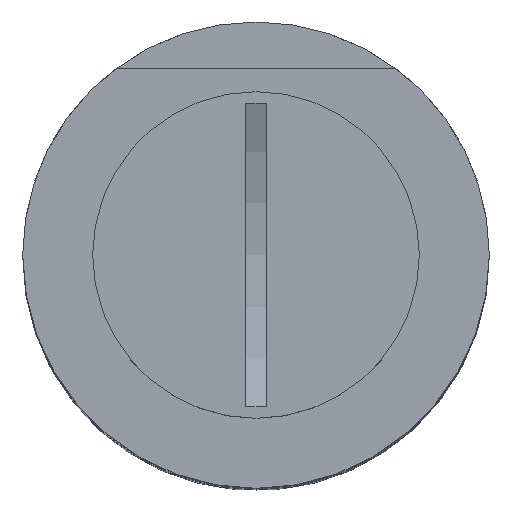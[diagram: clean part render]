
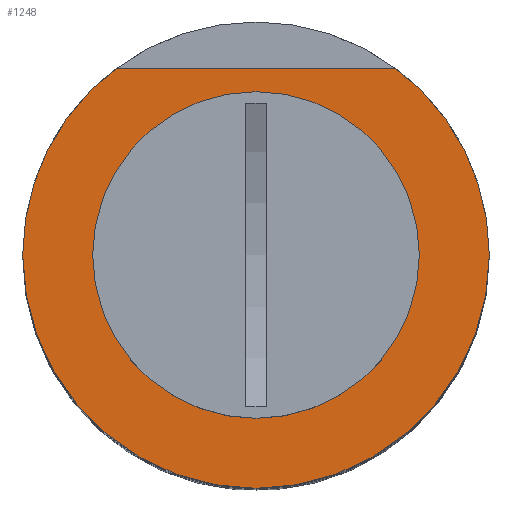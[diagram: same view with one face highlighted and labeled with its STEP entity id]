
A CAD part, top view. The second image highlights one B-rep face of the part: STEP entity #1248.
In plain terms, the highlighted planar face has unit normal (0, 0, 1).
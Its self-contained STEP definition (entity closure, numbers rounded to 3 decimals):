
#125 = CIRCLE ( 'NONE', #7016, 20. ) ;
#199 = VERTEX_POINT ( 'NONE', #7537 ) ;
#507 = DIRECTION ( 'NONE',  ( 1., 0., 0. ) ) ;
#552 = FACE_BOUND ( 'NONE', #7190, .T. ) ;
#609 = PLANE ( 'NONE',  #2458 ) ;
#635 = CIRCLE ( 'NONE', #7174, 12.25 ) ;
#1248 = ADVANCED_FACE ( 'NONE', ( #552, #1568 ), #609, .T. ) ;
#1327 = DIRECTION ( 'NONE',  ( -1., 0., 0. ) ) ;
#1332 = EDGE_LOOP ( 'NONE', ( #5241, #3220, #10286, #1732 ) ) ;
#1382 = VECTOR ( 'NONE', #7176, 1000. ) ;
#1408 = DIRECTION ( 'NONE',  ( 1., 0., 0. ) ) ;
#1465 = ORIENTED_EDGE ( 'NONE', *, *, #7895, .F. ) ;
#1512 = CARTESIAN_POINT ( 'NONE',  ( 0., 0., 0. ) ) ;
#1568 = FACE_OUTER_BOUND ( 'NONE', #1332, .T. ) ;
#1732 = ORIENTED_EDGE ( 'NONE', *, *, #10159, .F. ) ;
#1823 = CARTESIAN_POINT ( 'NONE',  ( -12.25, 0., 0. ) ) ;
#2018 = EDGE_CURVE ( 'NONE', #8298, #7810, #3685, .T. ) ;
#2322 = DIRECTION ( 'NONE',  ( 0., 0., -1. ) ) ;
#2360 = DIRECTION ( 'NONE',  ( -1., 0., 0. ) ) ;
#2458 = AXIS2_PLACEMENT_3D ( 'NONE', #7589, #10125, #3203 ) ;
#2461 = CIRCLE ( 'NONE', #7550, 20. ) ;
#3015 = AXIS2_PLACEMENT_3D ( 'NONE', #8195, #9832, #1327 ) ;
#3203 = DIRECTION ( 'NONE',  ( 1., 0., 0. ) ) ;
#3220 = ORIENTED_EDGE ( 'NONE', *, *, #9854, .F. ) ;
#3685 = LINE ( 'NONE', #10532, #1382 ) ;
#3866 = CARTESIAN_POINT ( 'NONE',  ( -20., 0., 0. ) ) ;
#3922 = CIRCLE ( 'NONE', #3015, 20. ) ;
#3952 = DIRECTION ( 'NONE',  ( 0., 0., 1. ) ) ;
#4721 = ORIENTED_EDGE ( 'NONE', *, *, #7958, .F. ) ;
#5000 = CARTESIAN_POINT ( 'NONE',  ( 0., 0., 0. ) ) ;
#5241 = ORIENTED_EDGE ( 'NONE', *, *, #2018, .F. ) ;
#5273 = VERTEX_POINT ( 'NONE', #3866 ) ;
#5501 = VERTEX_POINT ( 'NONE', #1823 ) ;
#5807 = DIRECTION ( 'NONE',  ( -1., 0., 0. ) ) ;
#6868 = CARTESIAN_POINT ( 'NONE',  ( 12.25, 0., 0. ) ) ;
#7016 = AXIS2_PLACEMENT_3D ( 'NONE', #5000, #2322, #5807 ) ;
#7174 = AXIS2_PLACEMENT_3D ( 'NONE', #9279, #3952, #1408 ) ;
#7176 = DIRECTION ( 'NONE',  ( 1., 0., 0. ) ) ;
#7190 = EDGE_LOOP ( 'NONE', ( #4721, #1465 ) ) ;
#7537 = CARTESIAN_POINT ( 'NONE',  ( 20., 0., 0. ) ) ;
#7550 = AXIS2_PLACEMENT_3D ( 'NONE', #9281, #10861, #2360 ) ;
#7589 = CARTESIAN_POINT ( 'NONE',  ( 0., 0., 0. ) ) ;
#7810 = VERTEX_POINT ( 'NONE', #9798 ) ;
#7895 = EDGE_CURVE ( 'NONE', #5501, #10612, #635, .T. ) ;
#7958 = EDGE_CURVE ( 'NONE', #10612, #5501, #8784, .T. ) ;
#8195 = CARTESIAN_POINT ( 'NONE',  ( 0., 0., 0. ) ) ;
#8274 = DIRECTION ( 'NONE',  ( 0., 0., 1. ) ) ;
#8298 = VERTEX_POINT ( 'NONE', #9782 ) ;
#8784 = CIRCLE ( 'NONE', #9141, 12.25 ) ;
#9125 = EDGE_CURVE ( 'NONE', #199, #5273, #2461, .T. ) ;
#9141 = AXIS2_PLACEMENT_3D ( 'NONE', #1512, #8274, #507 ) ;
#9279 = CARTESIAN_POINT ( 'NONE',  ( 0., 0., 0. ) ) ;
#9281 = CARTESIAN_POINT ( 'NONE',  ( 0., 0., 0. ) ) ;
#9782 = CARTESIAN_POINT ( 'NONE',  ( -12., 16., 0. ) ) ;
#9798 = CARTESIAN_POINT ( 'NONE',  ( 12., 16., 0. ) ) ;
#9832 = DIRECTION ( 'NONE',  ( 0., 0., -1. ) ) ;
#9854 = EDGE_CURVE ( 'NONE', #5273, #8298, #3922, .T. ) ;
#10125 = DIRECTION ( 'NONE',  ( 0., 0., 1. ) ) ;
#10159 = EDGE_CURVE ( 'NONE', #7810, #199, #125, .T. ) ;
#10286 = ORIENTED_EDGE ( 'NONE', *, *, #9125, .F. ) ;
#10532 = CARTESIAN_POINT ( 'NONE',  ( -20., 16., 0. ) ) ;
#10612 = VERTEX_POINT ( 'NONE', #6868 ) ;
#10861 = DIRECTION ( 'NONE',  ( 0., 0., -1. ) ) ;
